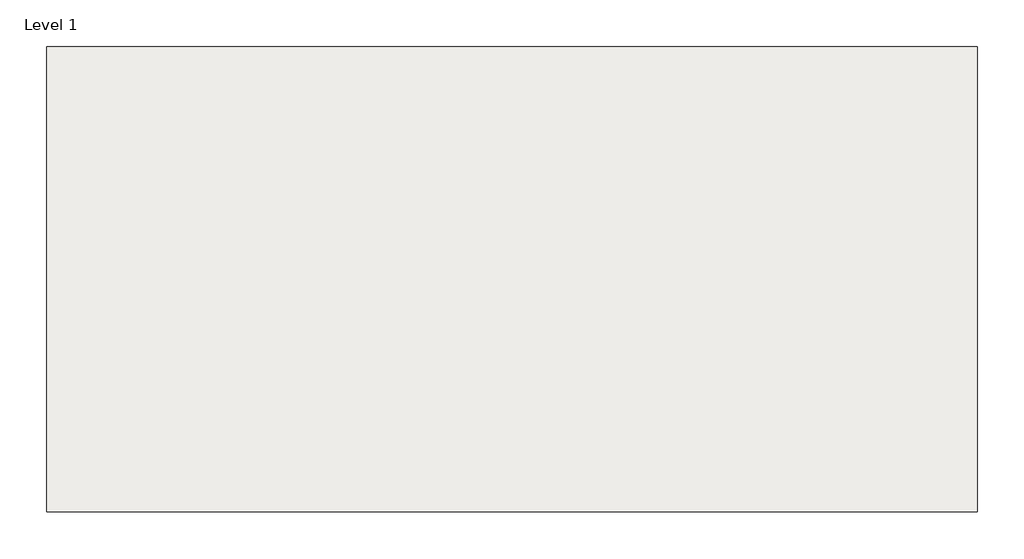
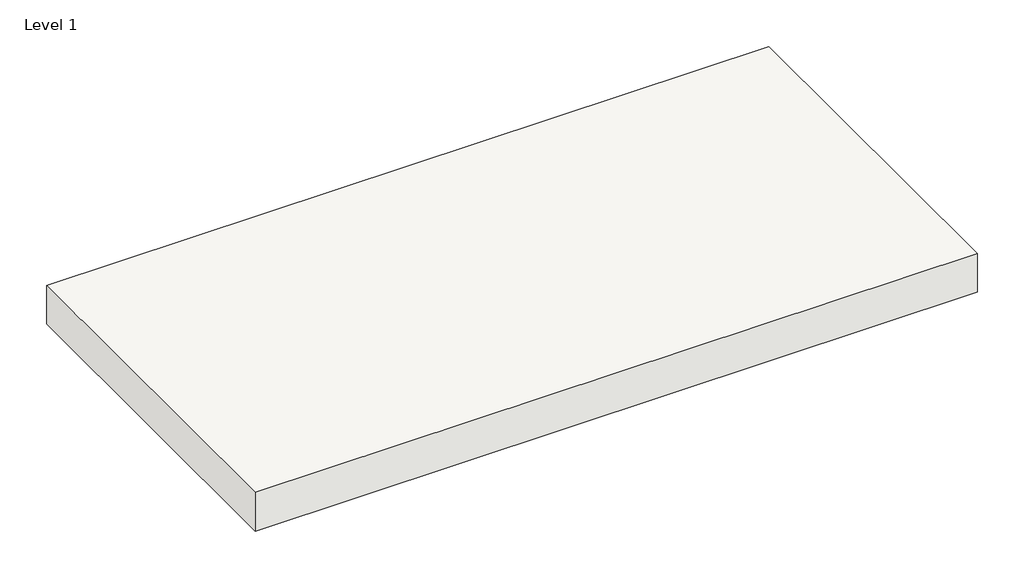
# One storey, incomplete: 1 slab.
"""IFC4 building model written with IfcOpenShell, lengths in millimetres."""

from ifc_helpers import new_model, si_unit, frame, origin, place, context, project, spatial, polyline, outline, extrude, element, save

model = new_model("IFC4")

# Units and contexts
model_context = context("Model", 3, world=origin())
ifc_project = project(units=[si_unit("LENGTHUNIT", "METRE", prefix="MILLI")], contexts=[model_context])

# Site, building, storey
site = spatial("IfcSite", under=ifc_project)
building = spatial("IfcBuilding", under=site)
storey = spatial("IfcBuildingStorey", under=building, Name="Level 1", Elevation=0.0)

# Slab
placement = place(None, origin())
element("IfcSlab", 1, ObjectType="Generic - 12\"", at=placement, inside=storey, context=model_context, shape_type="SweptSolid", body=[
    extrude(outline(polyline([(-13448.4242006, 14637.2598675), (-13448.4242006, 11937.2598675), (-18848.4242006, 11937.2598675), (-18848.4242006, 14637.2598675), (-13448.4242006, 14637.2598675)])), frame((0.0, 0.0, -304.8), z_axis=(0.0, 0.0, 1.0), x_axis=(1.0, 0.0, 0.0)), (0.0, 0.0, 1.0), 304.8),
])

save(model, "model.ifc")
